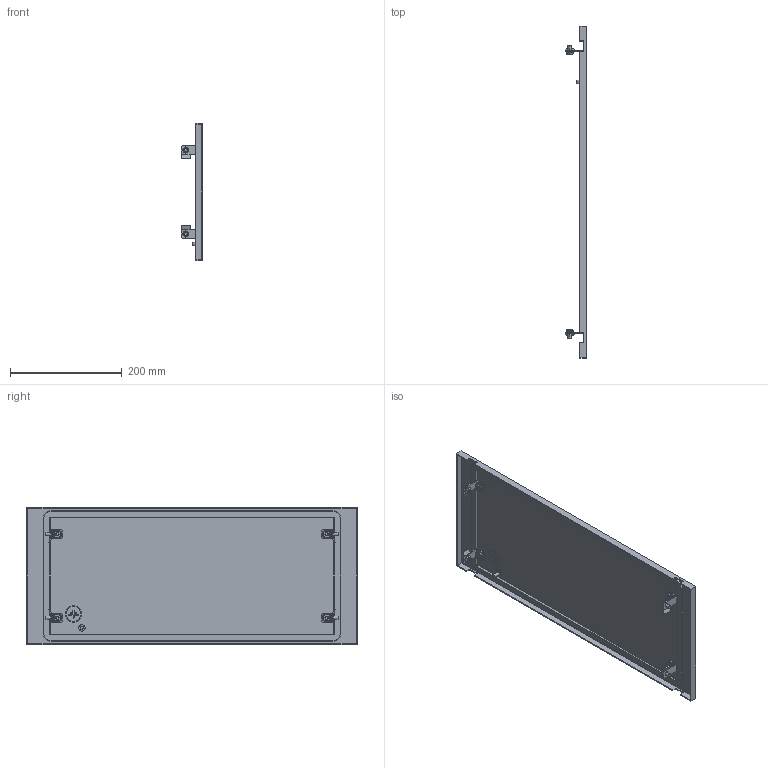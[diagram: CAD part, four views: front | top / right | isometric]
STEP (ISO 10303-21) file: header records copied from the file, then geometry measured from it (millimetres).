
FILE_DESCRIPTION (( 'STEP AP214' ), '1' );
FILE_NAME ('FO-00-PWSB-025-060 Ôàëüø-ïàíåëü âíåøíÿÿ ãëóõàÿ 250õ600 ìì.STEP', '2025-08-25T08:06:18', ( '' ), ( '' ), 'SwSTEP 2.0', 'SolidWorks 2023', '' );
FILE_SCHEMA (( 'AUTOMOTIVE_DESIGN' ));
Length unit declared in the file: millimetre
Products named in the file (1): FO-00-PWSB-025-060 Фальш-панель внешняя глухая 250х600 мм
Bounding box: 38.5 x 595 x 246 mm (x, y, z)
Volume: 391085.4 mm3; surface area: 351879.6 mm2
Topology: 1 solids, 10 shells, 846 faces, 2093 edges, 1287 vertices
Faces by surface type: plane 530, cylinder 202, cone 90, torus 24
Entity records: 25304 total; most frequent: CARTESIAN_POINT 4881, DIRECTION 4361, ORIENTED_EDGE 4182, EDGE_CURVE 2091, AXIS2_PLACEMENT_3D 1487, VECTOR 1387, LINE 1387, VERTEX_POINT 1287
